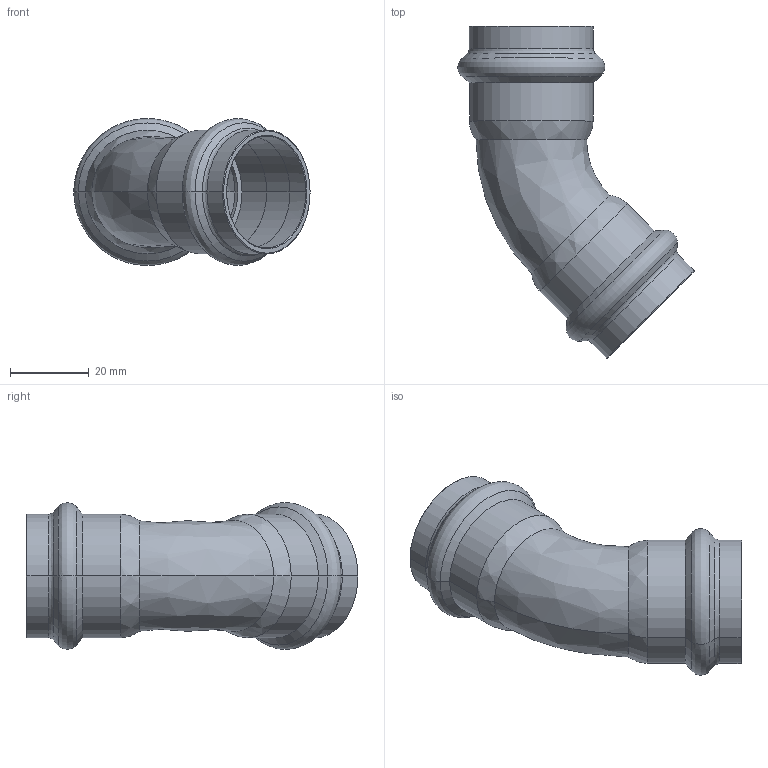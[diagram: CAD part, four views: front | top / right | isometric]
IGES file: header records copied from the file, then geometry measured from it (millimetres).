
Start section: Elysium IGES Interface
Global section: file name: C:\Users\Wallenburg\Desktop\3d modellen sudo\S-Pr VP\SP6041V\6041VW28.igs; native system: CoCreate Modeling 17.00A  17-Jun-2010; preprocessor: CoCreate IGES_3D V2.2; author: Unknown; organization: Unknown; date: 20130115.163818; units: millimetre
Bounding box: 59.84 x 84.07 x 37.17 mm (x, y, z)
Volume: 14917.8 mm3; surface area: 16673.2 mm2
Topology: 1 solids, 1 shells, 74 faces, 156 edges, 88 vertices
Faces by surface type: bspline 74
